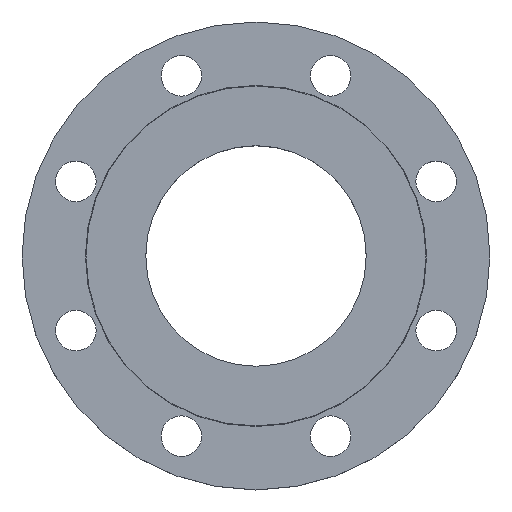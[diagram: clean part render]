
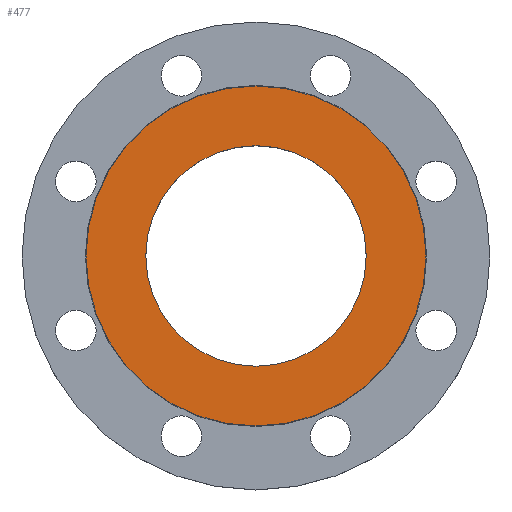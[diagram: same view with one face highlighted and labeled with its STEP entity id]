
A CAD part, top view. The second image highlights one B-rep face of the part: STEP entity #477.
In plain terms, the highlighted planar face has unit normal (0, 0, 1).
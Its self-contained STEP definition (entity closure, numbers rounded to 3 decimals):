
#2 = CIRCLE ( 'NONE', #1018, 109. ) ;
#4 = DIRECTION ( 'NONE',  ( 1., 0., 0. ) ) ;
#5 = DIRECTION ( 'NONE',  ( 0., 0., 1. ) ) ;
#6 = CARTESIAN_POINT ( 'NONE',  ( 0., 0., 0. ) ) ;
#27 = CARTESIAN_POINT ( 'NONE',  ( 70.67, 0., 0. ) ) ;
#100 = DIRECTION ( 'NONE',  ( 1., 0., 0. ) ) ;
#102 = DIRECTION ( 'NONE',  ( 0., 0., 1. ) ) ;
#103 = CARTESIAN_POINT ( 'NONE',  ( 0., 0., 0. ) ) ;
#107 = PLANE ( 'NONE',  #904 ) ;
#108 = FACE_OUTER_BOUND ( 'NONE', #454, .T. ) ;
#110 = FACE_BOUND ( 'NONE', #323, .T. ) ;
#189 = AXIS2_PLACEMENT_3D ( 'NONE', #708, #707, #662 ) ;
#323 = EDGE_LOOP ( 'NONE', ( #844, #847 ) ) ;
#334 = CARTESIAN_POINT ( 'NONE',  ( -109., 0., 0. ) ) ;
#346 = CARTESIAN_POINT ( 'NONE',  ( 109., 0., 0. ) ) ;
#414 = EDGE_CURVE ( 'NONE', #871, #976, #2, .T. ) ;
#415 = EDGE_CURVE ( 'NONE', #967, #1001, #1016, .T. ) ;
#454 = EDGE_LOOP ( 'NONE', ( #849, #851 ) ) ;
#477 = ADVANCED_FACE ( 'NONE', ( #110, #108 ), #107, .T. ) ;
#629 = EDGE_CURVE ( 'NONE', #1001, #967, #742, .T. ) ;
#642 = EDGE_CURVE ( 'NONE', #976, #871, #724, .T. ) ;
#662 = DIRECTION ( 'NONE',  ( -1., 0., 0. ) ) ;
#666 = CARTESIAN_POINT ( 'NONE',  ( -70.67, 0., 0. ) ) ;
#690 = DIRECTION ( 'NONE',  ( 1., 0., 0. ) ) ;
#692 = CARTESIAN_POINT ( 'NONE',  ( 0., 0., 0. ) ) ;
#693 = DIRECTION ( 'NONE',  ( 0., 0., -1. ) ) ;
#697 = DIRECTION ( 'NONE',  ( -1., 0., 0. ) ) ;
#701 = CARTESIAN_POINT ( 'NONE',  ( 0., 0., 0. ) ) ;
#703 = DIRECTION ( 'NONE',  ( 0., 0., 1. ) ) ;
#707 = DIRECTION ( 'NONE',  ( 0., 0., -1. ) ) ;
#708 = CARTESIAN_POINT ( 'NONE',  ( 0., 0., 0. ) ) ;
#724 = CIRCLE ( 'NONE', #189, 109. ) ;
#729 = AXIS2_PLACEMENT_3D ( 'NONE', #6, #5, #4 ) ;
#742 = CIRCLE ( 'NONE', #729, 70.67 ) ;
#844 = ORIENTED_EDGE ( 'NONE', *, *, #415, .F. ) ;
#847 = ORIENTED_EDGE ( 'NONE', *, *, #629, .F. ) ;
#849 = ORIENTED_EDGE ( 'NONE', *, *, #642, .F. ) ;
#851 = ORIENTED_EDGE ( 'NONE', *, *, #414, .F. ) ;
#871 = VERTEX_POINT ( 'NONE', #346 ) ;
#904 = AXIS2_PLACEMENT_3D ( 'NONE', #103, #102, #100 ) ;
#967 = VERTEX_POINT ( 'NONE', #27 ) ;
#976 = VERTEX_POINT ( 'NONE', #334 ) ;
#1001 = VERTEX_POINT ( 'NONE', #666 ) ;
#1014 = AXIS2_PLACEMENT_3D ( 'NONE', #701, #703, #690 ) ;
#1016 = CIRCLE ( 'NONE', #1014, 70.67 ) ;
#1018 = AXIS2_PLACEMENT_3D ( 'NONE', #692, #693, #697 ) ;
